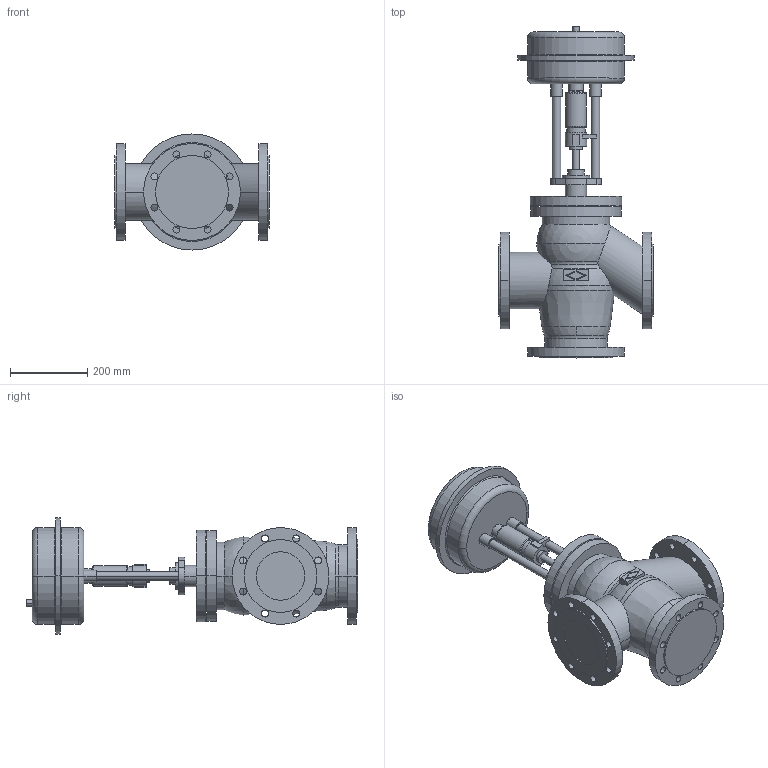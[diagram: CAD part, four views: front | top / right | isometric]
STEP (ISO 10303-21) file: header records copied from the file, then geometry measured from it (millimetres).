
FILE_DESCRIPTION(('OneSpaceDesigner STEP Export'),'2;1');
FILE_NAME('c000000782.stp','2007-01-26T12:30:21',(''),(''),'OneSpace Designer STEP processor for AP214 (Solid Model)','OneSpace Designer 14.00B 27-May-2006 (C) CoCreate Software GmbH','');
FILE_SCHEMA(('AUTOMOTIVE_DESIGN { 1 0 10303 214 1 1 1 1 }'));
Length unit declared in the file: millimetre
Products named in the file (2): 1; 2
Bounding box: 400 x 857.6 x 300 mm (x, y, z)
Volume: 25832163.4 mm3; surface area: 1057024.3 mm2
Topology: 2 solids, 2 shells, 227 faces, 571 edges, 370 vertices
Faces by surface type: cylinder 116, plane 73, torus 24, sphere 8, cone 6
Entity records: 6160 total; most frequent: CARTESIAN_POINT 1249, ORIENTED_EDGE 1126, DIRECTION 868, EDGE_CURVE 563, VERTEX_POINT 370, AXIS2_PLACEMENT_3D 326, EDGE_LOOP 305, FACE_OUTER_BOUND 227
